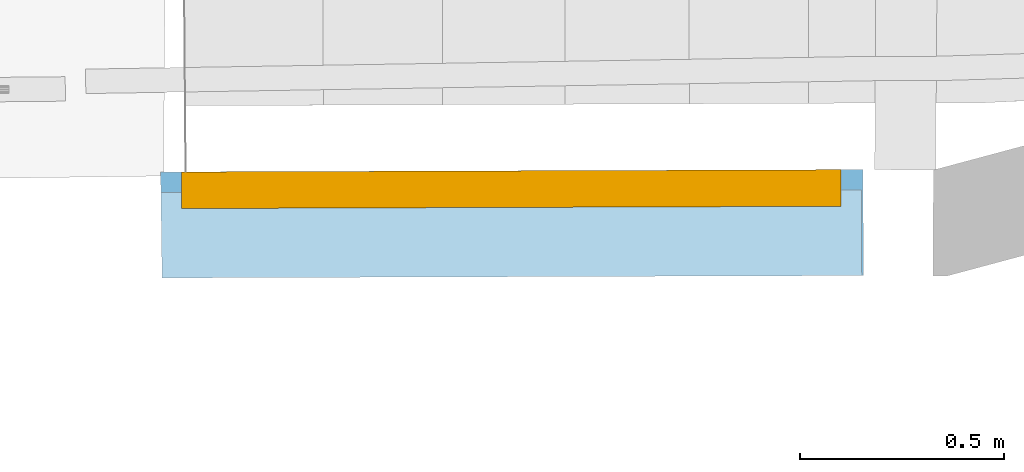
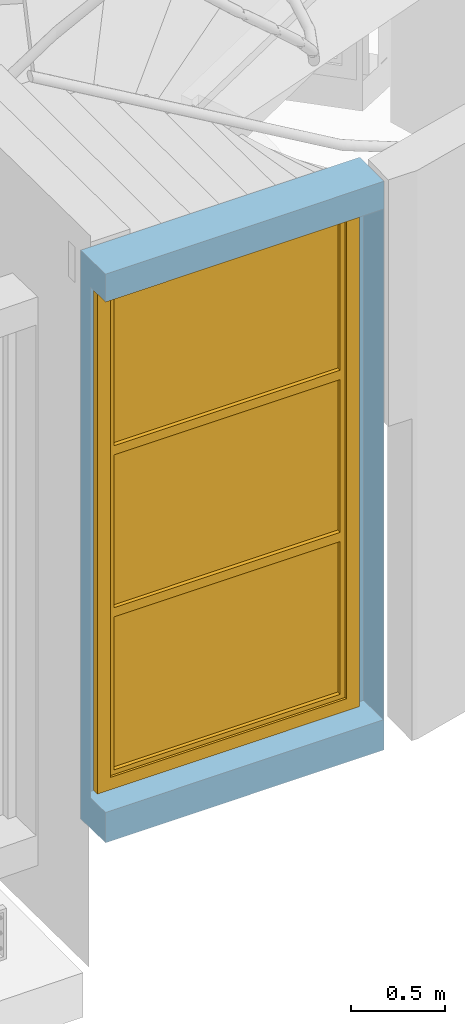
# One storey, part 56 of 97: 1 window, 1 opening, plus 1 element that does not belong to this part.
"""IFC2X3 building model written with IfcOpenShell, lengths in centimetres."""

from ifc_helpers import new_model, entity, si_unit, converted_unit, direction, frame, origin, origin_with_axes, place, context, subcontext, project, spatial, polyline, outline, extrude, faceted_brep, shape, source, transform, mapped, material, material_list, layer, layer_set, layer_usage, type_object, element, fill, save


model = new_model("IFC2X3")

# Units and contexts
model_context = context("Model", 3, precision=0.0001, world=origin(), true_north=direction((0.225632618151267, 0.974212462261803, 0.0)))
body_context = subcontext(model_context, "Body", "Model", "MODEL_VIEW")
footprint_context = subcontext(model_context, "FootPrint", "Model", "MODEL_VIEW")
profile_context = subcontext(model_context, "Profile", "Model", "MODEL_VIEW")
ifc_project = project(units=[si_unit("LENGTHUNIT", "METRE", prefix="CENTI"), si_unit("AREAUNIT", "SQUARE_METRE", prefix="CENTI"), si_unit("VOLUMEUNIT", "CUBIC_METRE", prefix="CENTI"), converted_unit("PLANEANGLEUNIT", "DEGREE", entity("IfcRatioMeasure", 0.0174532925), si_unit("PLANEANGLEUNIT", "RADIAN"), dimensions=[0, 0, 0, 0, 0, 0, 0])], contexts=[model_context])

# Site, building, storey
site_placement = place(None, origin_with_axes())
site = spatial("IfcSite", under=ifc_project, at=site_placement, Name="Default Site", CompositionType="ELEMENT")
building_placement = place(site_placement, origin_with_axes())
building = spatial("IfcBuilding", under=site, at=building_placement, Name="Default Building", CompositionType="ELEMENT")
storey_placement = place(building_placement, origin_with_axes())
storey = spatial("IfcBuildingStorey", under=building, at=storey_placement, Name="Rez-de-chaussée", CompositionType="ELEMENT", Elevation=0.0)

# Wall, opening, window
ifc_material_1 = material(Name="<aucun>")
ifc_layer = layer(ifc_material_1, 26.0)
ifc_layer_set = layer_set([ifc_layer], Name="default")
ifc_layer_usage = layer_usage(ifc_layer_set, "AXIS2", "POSITIVE", -13.0)
wall_type = type_object("IfcWallType", Name="default 260", PredefinedType="NOTDEFINED", material=ifc_layer_set)
wall_placement = place(storey_placement, frame((1116.61177185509, -885.677420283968, 100.0), z_axis=(0.0, 0.0, 1.0), x_axis=(0.999994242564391, 0.0033933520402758, 0.0)))
wall = element("IfcWallStandardCase", 1, at=wall_placement, inside=storey, type_object=wall_type, material=ifc_layer_usage, Name="Enveloppe 531149", context=body_context, shape_type="SweptSolid", body=[
    extrude(outline(polyline([(-0.107546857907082, 13.0054665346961), (0.164133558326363, -12.9997790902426), (172.280696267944, -13.0000000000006), (172.280696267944, 12.9999999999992), (-0.107546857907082, 13.0054665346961)])), frame((0.0, 0.0, 2.22044604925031e-14), z_axis=(0.0, 0.0, 1.0), x_axis=(1.0, 0.0, 0.0)), (0.0, 0.0, 1.0), 370.795358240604),
])
opening_placement = place(wall_placement, frame((0.0, 0.0, 19.7999999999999), z_axis=(0.0, 0.0, 1.0), x_axis=(-1.0, 1.42767742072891e-15, 0.0)))
cartesian_point_1 = entity("IfcCartesianPoint", [0.0, 0.0, 333.0])
cartesian_point_2 = entity("IfcCartesianPoint", [-171.871488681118, -13.0000000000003])
opening = element("IfcOpeningElement", 2, at=opening_placement, cuts=wall, Name="4294966538_11", ObjectType="Opening", shapes=[
    shape(body_context, "Body", "Brep", [faceted_brep([(-4.99996666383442, -32.9999876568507, 332.999987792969), (-166.871473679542, -32.999987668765, 332.999987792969), (-166.871473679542, -32.999987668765, -4.57763675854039e-06), (-4.99996666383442, -32.9999876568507, -4.57763675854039e-06), (2.43071463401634e-05, 33.0000042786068, -4.57763675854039e-06), (-171.871483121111, 33.0000042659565, -4.57763675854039e-06), (-171.871483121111, 33.0000042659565, 332.999987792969), (2.43071463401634e-05, 33.0000042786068, 332.999987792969), (-4.9999666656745, -8.00003430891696, -4.57763675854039e-06), (-4.9999666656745, -8.00003430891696, 332.999987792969), (-5.00001003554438, -8.00003430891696, 332.999987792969), (-5.00001003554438, -8.00003430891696, -4.57763675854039e-06), (3.78541720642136e-05, -8.00003430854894, -4.57763675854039e-06), (3.78541720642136e-05, -8.00003430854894, 332.999987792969), (3.78541720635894e-05, -8.00002582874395, 332.999987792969), (3.78541720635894e-05, -8.00002582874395, -4.57763675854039e-06), (3.78511543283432e-05, 33.0000042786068, -4.57763675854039e-06), (3.78511543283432e-05, 33.0000042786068, 332.999987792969), (-166.871473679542, -33.0000170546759, -4.57763675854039e-06), (-166.871516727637, -7.99996833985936, -4.57763675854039e-06), (-171.87146925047, -7.99997714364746, -4.57763675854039e-06), (-171.871483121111, 32.9999575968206, -4.57763675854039e-06), (-166.871473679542, -33.0000170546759, 332.999987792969), (-166.871473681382, -7.99996833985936, 332.999987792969), (-166.871473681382, -7.99996833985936, -4.57763675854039e-06), (-166.871516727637, -7.99996833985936, 332.999987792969), (-171.87146925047, -7.99996834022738, 332.999987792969), (-171.87146925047, -7.99996834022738, -4.57763675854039e-06), (-171.87146925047, -7.99997714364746, 332.999987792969), (-171.871469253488, 32.9999575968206, 332.999987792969), (-171.871469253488, 32.9999575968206, -4.57763675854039e-06), (-171.871483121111, 32.9999575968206, 332.999987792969)], [[[0, 1, 2, 3]], [[4, 5, 6, 7]], [[0, 3, 8, 9]], [[10, 11, 12, 13]], [[14, 15, 16, 17]], [[3, 18, 19, 20, 21, 4, 15, 11]], [[18, 22, 23, 24]], [[19, 25, 26, 27]], [[20, 28, 29, 30]], [[10, 14, 7, 31, 28, 25, 22, 0]]])]),
    shape(profile_context, "Profile", "GeometricCurveSet", [entity("IfcGeometricCurveSet", [entity("IfcPolyline", [cartesian_point_1, entity("IfcCartesianPoint", [0.0, 0.0, -4.44089209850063e-14]), entity("IfcCartesianPoint", [-171.871488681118, -1.77635683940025e-13, -4.44089209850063e-14]), entity("IfcCartesianPoint", [-171.871488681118, -1.77635683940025e-13, 333.0]), cartesian_point_1])])]),
    shape(footprint_context, "FootPrint", "GeometricCurveSet", [entity("IfcGeometricCurveSet", [entity("IfcPolyline", [cartesian_point_2, entity("IfcCartesianPoint", [0.0, -13.0000000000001]), entity("IfcCartesianPoint", [-1.77635683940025e-13, 13.0000000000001]), entity("IfcCartesianPoint", [-171.871488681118, 13.0000000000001]), cartesian_point_2])])]),
])
ifc_material_2 = material(Name="Transparent")
ifc_material_3 = material(Name="Blanc trafic")
ifc_material_list = material_list([ifc_material_2, ifc_material_3])
window_style = type_object("IfcWindowStyle", Name="Fn 1 montant fixe 2 vitres ép 90", ConstructionType="NOTDEFINED", OperationType="TRIPLE_PANEL_HORIZONTAL", ParameterTakesPrecedence=True, Sizeable=False, material=ifc_material_list)
shared_shape = source(origin_with_axes(), body_context, "Body", "Brep", [
    faceted_brep([(-72.9357421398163, 325.0, -4.50000017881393), (-72.9357421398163, 325.0, 4.50000017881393), (-72.9357421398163, 7.99999982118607, 4.50000017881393), (-72.9357421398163, 7.99999982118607, -4.50000017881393), (-80.9357464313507, 332.999992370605, 4.50000017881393), (-80.9357464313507, 0.0, 4.50000017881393), (-80.9357464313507, 332.999992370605, -4.50000017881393), (-80.9357464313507, 3.70148697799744e-31, -4.50000017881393), (-80.9357464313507, 3.70148697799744e-31, 4.50000017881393), (-80.9357464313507, 0.0, -4.50000017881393), (72.9357421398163, 7.99999982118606, 4.50000017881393), (72.9357421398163, 7.99999982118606, -4.50000017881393), (80.9357464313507, 0.0, 4.50000017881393), (72.9357421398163, 7.99999982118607, 4.50000017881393), (80.9357464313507, 0.0, -4.50000017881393), (72.9357421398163, 7.99999982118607, -4.50000017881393), (72.9357421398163, 325.0, 4.50000017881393), (72.9357421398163, 325.0, -4.50000017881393), (80.9357464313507, 332.999992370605, 4.50000017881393), (80.9357464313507, 332.999992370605, -4.50000017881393)], [[[0, 1, 2, 3]], [[1, 4, 5, 2]], [[4, 6, 7, 8]], [[6, 0, 3, 9]], [[3, 2, 10, 11]], [[2, 5, 12, 13]], [[5, 9, 14, 12]], [[9, 3, 15, 14]], [[15, 13, 16, 17]], [[13, 12, 18, 16]], [[12, 14, 19, 18]], [[14, 15, 17, 19]], [[17, 16, 1, 0]], [[16, 18, 4, 1]], [[18, 19, 6, 4]], [[19, 17, 0, 6]]]),
    faceted_brep([(-69.9357450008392, 322.000002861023, -2.99999993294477), (-69.9357450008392, 322.000002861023, 2.99999993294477), (-69.9357450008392, 222.333335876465, 2.99999993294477), (-69.9357450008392, 222.333335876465, -2.99999993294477), (-72.9357421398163, 325.0, 2.99999993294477), (-72.9357421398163, 219.333338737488, 2.99999993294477), (-72.9357421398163, 325.0, -2.99999993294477), (-72.9357421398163, 219.333338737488, -2.99999993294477), (69.9357450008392, 222.333335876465, 2.99999993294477), (69.9357450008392, 222.333335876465, -2.99999993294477), (72.9357421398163, 219.333338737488, 2.99999993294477), (72.9357421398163, 219.333338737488, -2.99999993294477), (69.9357450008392, 322.000002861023, 2.99999993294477), (69.9357450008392, 322.000002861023, -2.99999993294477), (72.9357421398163, 325.0, 2.99999993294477), (72.9357421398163, 325.0, -2.99999993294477)], [[[0, 1, 2, 3]], [[1, 4, 5, 2]], [[4, 6, 7, 5]], [[6, 0, 3, 7]], [[3, 2, 8, 9]], [[2, 5, 10, 8]], [[5, 7, 11, 10]], [[7, 3, 9, 11]], [[9, 8, 12, 13]], [[8, 10, 14, 12]], [[10, 11, 15, 14]], [[11, 9, 13, 15]], [[13, 12, 1, 0]], [[12, 14, 4, 1]], [[14, 15, 6, 4]], [[15, 13, 0, 6]]]),
    faceted_brep([(69.9357450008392, 322.000002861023, -0.499999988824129), (69.9357450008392, 222.333335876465, -0.499999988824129), (-69.9357450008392, 222.333335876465, -0.499999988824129), (-69.9357450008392, 322.000002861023, -0.499999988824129), (-69.9357450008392, 322.000002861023, 0.499999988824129), (-69.9357450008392, 222.333335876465, 0.499999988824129), (69.9357450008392, 222.333335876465, 0.499999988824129), (69.9357450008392, 322.000002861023, 0.499999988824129)], [[[0, 1, 2, 3]], [[4, 5, 6, 7]], [[3, 2, 5, 4]], [[2, 1, 6, 5]], [[1, 0, 7, 6]], [[0, 3, 4, 7]]]),
    faceted_brep([(-69.9357450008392, 216.333341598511, -2.99999993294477), (-69.9357450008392, 216.333341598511, 2.99999993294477), (-69.9357450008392, 116.666662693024, 2.99999993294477), (-69.9357450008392, 116.666662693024, -2.99999993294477), (-72.9357421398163, 219.333338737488, 2.99999993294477), (-72.9357421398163, 113.666665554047, 2.99999993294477), (-72.9357421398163, 219.333338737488, -2.99999993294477), (-72.9357421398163, 113.666665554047, -2.99999993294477), (69.9357450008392, 116.666662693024, 2.99999993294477), (69.9357450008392, 116.666662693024, -2.99999993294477), (72.9357421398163, 113.666665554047, 2.99999993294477), (72.9357421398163, 113.666665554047, -2.99999993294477), (69.9357450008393, 216.333341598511, 2.99999993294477), (69.9357450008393, 216.333341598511, -2.99999993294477), (72.9357421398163, 219.333338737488, 2.99999993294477), (69.9357450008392, 216.333341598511, 2.99999993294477), (72.9357421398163, 219.333338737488, -2.99999993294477), (69.9357450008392, 216.333341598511, -2.99999993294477)], [[[0, 1, 2, 3]], [[1, 4, 5, 2]], [[4, 6, 7, 5]], [[6, 0, 3, 7]], [[3, 2, 8, 9]], [[2, 5, 10, 8]], [[5, 7, 11, 10]], [[7, 3, 9, 11]], [[9, 8, 12, 13]], [[8, 10, 14, 15]], [[10, 11, 16, 14]], [[11, 9, 17, 16]], [[17, 15, 1, 0]], [[15, 14, 4, 1]], [[14, 16, 6, 4]], [[16, 17, 0, 6]]]),
    faceted_brep([(69.9357450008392, 216.333341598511, -0.499999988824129), (69.9357450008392, 116.666662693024, -0.499999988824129), (-69.9357450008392, 116.666662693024, -0.499999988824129), (-69.9357450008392, 216.333341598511, -0.499999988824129), (-69.9357450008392, 216.333341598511, 0.499999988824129), (-69.9357450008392, 116.666662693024, 0.499999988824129), (69.9357450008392, 116.666662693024, 0.499999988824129), (69.9357450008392, 216.333341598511, 0.499999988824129), (69.9357450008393, 216.333341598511, -0.499999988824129), (69.9357450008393, 216.333341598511, 0.499999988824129)], [[[0, 1, 2, 3]], [[4, 5, 6, 7]], [[3, 2, 5, 4]], [[2, 1, 6, 5]], [[1, 8, 9, 6]], [[0, 3, 4, 7]]]),
    faceted_brep([(-69.9357450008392, 110.66666841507, -2.99999993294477), (-69.9357450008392, 110.66666841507, 2.99999993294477), (-69.9357450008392, 10.9999999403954, 2.99999993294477), (-69.9357450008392, 10.9999999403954, -2.99999993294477), (-72.9357421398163, 113.666665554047, 2.99999993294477), (-72.9357421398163, 7.99999982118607, 2.99999993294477), (-72.9357421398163, 113.666665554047, -2.99999993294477), (-72.9357421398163, 7.99999982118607, -2.99999993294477), (69.9357450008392, 10.9999999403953, 2.99999993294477), (69.9357450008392, 10.9999999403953, -2.99999993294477), (72.9357421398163, 7.99999982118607, 2.99999993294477), (69.9357450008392, 10.9999999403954, 2.99999993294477), (72.9357421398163, 7.99999982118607, -2.99999993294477), (69.9357450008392, 10.9999999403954, -2.99999993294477), (69.9357450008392, 110.66666841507, 2.99999993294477), (69.9357450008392, 110.66666841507, -2.99999993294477), (72.9357421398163, 113.666665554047, 2.99999993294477), (72.9357421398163, 113.666665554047, -2.99999993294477)], [[[0, 1, 2, 3]], [[1, 4, 5, 2]], [[4, 6, 7, 5]], [[6, 0, 3, 7]], [[3, 2, 8, 9]], [[2, 5, 10, 11]], [[5, 7, 12, 10]], [[7, 3, 13, 12]], [[13, 11, 14, 15]], [[11, 10, 16, 14]], [[10, 12, 17, 16]], [[12, 13, 15, 17]], [[15, 14, 1, 0]], [[14, 16, 4, 1]], [[16, 17, 6, 4]], [[17, 15, 0, 6]]]),
    faceted_brep([(69.9357450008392, 110.66666841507, -0.499999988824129), (69.9357450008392, 10.9999999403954, -0.499999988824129), (-69.9357450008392, 10.9999999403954, -0.499999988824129), (-69.9357450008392, 110.66666841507, -0.499999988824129), (-69.9357450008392, 110.66666841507, 0.499999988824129), (-69.9357450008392, 10.9999999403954, 0.499999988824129), (69.9357450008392, 10.9999999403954, 0.499999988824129), (69.9357450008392, 110.66666841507, 0.499999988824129)], [[[0, 1, 2, 3]], [[4, 5, 6, 7]], [[3, 2, 5, 4]], [[2, 1, 6, 5]], [[1, 0, 7, 6]], [[0, 3, 4, 7]]]),
])
window_placement = place(opening_placement, frame((-166.871488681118, -12.9999999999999, 0.0), z_axis=(0.0, 0.0, 1.0), x_axis=(1.0, 0.0, 0.0)))
window = element("IfcWindow", 3, at=window_placement, inside=storey, type_object=window_style, material=ifc_material_list, Name="Fenêtre 531666", OverallHeight=333.0, OverallWidth=161.871488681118, context=body_context, shape_type="MappedRepresentation", body=[
    mapped(shared_shape, transform((80.935744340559, 4.49999999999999, 2.22044604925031e-14), x_axis=(-1.0, 4.33680868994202e-19, 0.0), y_axis=(0.0, 0.0, 1.0), z_axis=(4.33680868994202e-19, 1.0, 0.0), scale=1.0, scale2=1.0, scale3=1.0, uniform=False)),
])
fill(opening, window)

save(model, "model.ifc")
